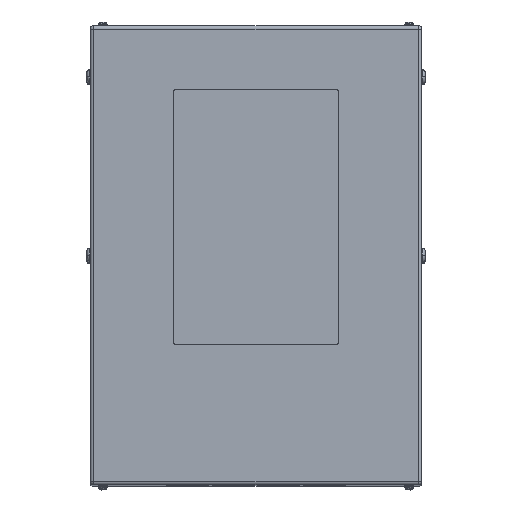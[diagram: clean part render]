
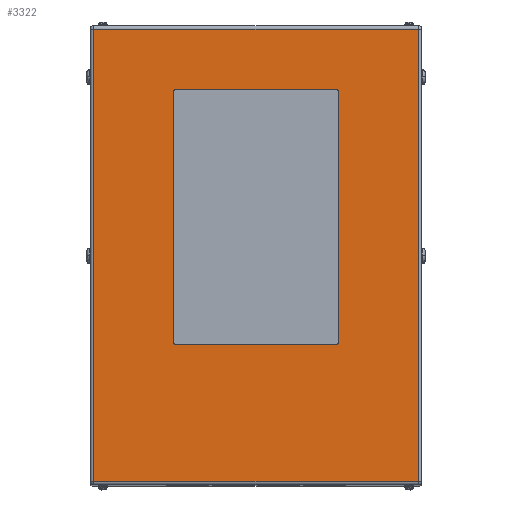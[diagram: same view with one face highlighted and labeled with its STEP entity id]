
A CAD part, top view. The second image highlights one B-rep face of the part: STEP entity #3322.
In plain terms, the highlighted planar face has unit normal (0, 0, 1).
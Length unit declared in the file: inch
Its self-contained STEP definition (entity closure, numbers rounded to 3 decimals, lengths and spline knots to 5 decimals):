
#143 = LINE ( 'NONE', #12741, #16579 ) ;
#175 = VECTOR ( 'NONE', #22970, 39.37008 ) ;
#272 = CARTESIAN_POINT ( 'NONE',  ( 6.5, 12.75, 32. ) ) ;
#390 = DIRECTION ( 'NONE',  ( 0., 1., 0. ) ) ;
#531 = VERTEX_POINT ( 'NONE', #17798 ) ;
#664 = CIRCLE ( 'NONE', #19768, 0.25 ) ;
#1810 = LINE ( 'NONE', #18685, #12751 ) ;
#1937 = VECTOR ( 'NONE', #14845, 39.37008 ) ;
#1980 = VERTEX_POINT ( 'NONE', #3817 ) ;
#2233 = CARTESIAN_POINT ( 'NONE',  ( 12.734, 17.734, 32. ) ) ;
#2873 = VERTEX_POINT ( 'NONE', #3796 ) ;
#3053 = CARTESIAN_POINT ( 'NONE',  ( 12.734, -17.734, 32. ) ) ;
#3222 = FACE_OUTER_BOUND ( 'NONE', #20643, .T. ) ;
#3322 = ADVANCED_FACE ( 'NONE', ( #6051, #3222 ), #22959, .F. ) ;
#3324 = ORIENTED_EDGE ( 'NONE', *, *, #10189, .T. ) ;
#3589 = ORIENTED_EDGE ( 'NONE', *, *, #9261, .F. ) ;
#3648 = ORIENTED_EDGE ( 'NONE', *, *, #20543, .F. ) ;
#3796 = CARTESIAN_POINT ( 'NONE',  ( -6.5, -6.75, 32. ) ) ;
#3817 = CARTESIAN_POINT ( 'NONE',  ( -6.25, 13., 32. ) ) ;
#3963 = DIRECTION ( 'NONE',  ( -1., 0., 0. ) ) ;
#4308 = CARTESIAN_POINT ( 'NONE',  ( 13., 17.734, 32. ) ) ;
#4738 = ORIENTED_EDGE ( 'NONE', *, *, #14513, .F. ) ;
#5002 = CARTESIAN_POINT ( 'NONE',  ( -6.5, 12.75, 32. ) ) ;
#5668 = CARTESIAN_POINT ( 'NONE',  ( 12.734, -17.734, 32. ) ) ;
#5907 = VECTOR ( 'NONE', #11511, 39.37008 ) ;
#6051 = FACE_BOUND ( 'NONE', #19979, .T. ) ;
#6164 = CARTESIAN_POINT ( 'NONE',  ( -12.734, -17.734, 32. ) ) ;
#6569 = VERTEX_POINT ( 'NONE', #6164 ) ;
#6709 = ORIENTED_EDGE ( 'NONE', *, *, #22350, .T. ) ;
#6949 = VERTEX_POINT ( 'NONE', #14094 ) ;
#7139 = AXIS2_PLACEMENT_3D ( 'NONE', #13692, #11968, #14023 ) ;
#7405 = DIRECTION ( 'NONE',  ( 0., 0., 1. ) ) ;
#7844 = ORIENTED_EDGE ( 'NONE', *, *, #18151, .F. ) ;
#7958 = EDGE_CURVE ( 'NONE', #16424, #12172, #14262, .T. ) ;
#8287 = ORIENTED_EDGE ( 'NONE', *, *, #7958, .T. ) ;
#8759 = EDGE_CURVE ( 'NONE', #6569, #16424, #16491, .T. ) ;
#8784 = VERTEX_POINT ( 'NONE', #16610 ) ;
#8838 = CIRCLE ( 'NONE', #19664, 0.25 ) ;
#8927 = CARTESIAN_POINT ( 'NONE',  ( 6.25, -6.75, 32. ) ) ;
#9163 = CARTESIAN_POINT ( 'NONE',  ( 6.25, 12.75, 32. ) ) ;
#9261 = EDGE_CURVE ( 'NONE', #8784, #15487, #14209, .T. ) ;
#9346 = EDGE_CURVE ( 'NONE', #6949, #12144, #17922, .T. ) ;
#10189 = EDGE_CURVE ( 'NONE', #531, #6569, #1810, .T. ) ;
#11274 = LINE ( 'NONE', #4308, #5907 ) ;
#11511 = DIRECTION ( 'NONE',  ( -1., 0., 0. ) ) ;
#11901 = EDGE_CURVE ( 'NONE', #12144, #1980, #143, .T. ) ;
#11903 = VECTOR ( 'NONE', #390, 39.37008 ) ;
#11950 = DIRECTION ( 'NONE',  ( 0., 0., 1. ) ) ;
#11968 = DIRECTION ( 'NONE',  ( 0., 0., -1. ) ) ;
#12144 = VERTEX_POINT ( 'NONE', #23189 ) ;
#12172 = VERTEX_POINT ( 'NONE', #2233 ) ;
#12359 = CARTESIAN_POINT ( 'NONE',  ( -6.25, -7., 32. ) ) ;
#12659 = DIRECTION ( 'NONE',  ( 0., 0., 1. ) ) ;
#12741 = CARTESIAN_POINT ( 'NONE',  ( -6.25, 13., 32. ) ) ;
#12751 = VECTOR ( 'NONE', #22109, 39.37008 ) ;
#12846 = CARTESIAN_POINT ( 'NONE',  ( -6.25, -6.75, 32. ) ) ;
#13169 = CARTESIAN_POINT ( 'NONE',  ( -6.5, 12.75, 32. ) ) ;
#13680 = ORIENTED_EDGE ( 'NONE', *, *, #9346, .F. ) ;
#13692 = CARTESIAN_POINT ( 'NONE',  ( 13., 18., 32. ) ) ;
#14023 = DIRECTION ( 'NONE',  ( -1., 0., 0. ) ) ;
#14094 = CARTESIAN_POINT ( 'NONE',  ( 6.5, 12.75, 32. ) ) ;
#14209 = LINE ( 'NONE', #12359, #21715 ) ;
#14262 = LINE ( 'NONE', #20104, #20819 ) ;
#14513 = EDGE_CURVE ( 'NONE', #2873, #8784, #19318, .T. ) ;
#14726 = DIRECTION ( 'NONE',  ( 0., 0., 1. ) ) ;
#14845 = DIRECTION ( 'NONE',  ( 1., 0., 0. ) ) ;
#15157 = VERTEX_POINT ( 'NONE', #17591 ) ;
#15487 = VERTEX_POINT ( 'NONE', #19338 ) ;
#16385 = LINE ( 'NONE', #272, #11903 ) ;
#16424 = VERTEX_POINT ( 'NONE', #3053 ) ;
#16491 = LINE ( 'NONE', #5668, #1937 ) ;
#16579 = VECTOR ( 'NONE', #16840, 39.37008 ) ;
#16610 = CARTESIAN_POINT ( 'NONE',  ( -6.25, -7., 32. ) ) ;
#16840 = DIRECTION ( 'NONE',  ( -1., 0., 0. ) ) ;
#17192 = CARTESIAN_POINT ( 'NONE',  ( -6.25, 12.75, 32. ) ) ;
#17591 = CARTESIAN_POINT ( 'NONE',  ( 6.5, -6.75, 32. ) ) ;
#17798 = CARTESIAN_POINT ( 'NONE',  ( -12.734, 17.734, 32. ) ) ;
#17922 = CIRCLE ( 'NONE', #22078, 0.25 ) ;
#17976 = DIRECTION ( 'NONE',  ( 0., 1., 0. ) ) ;
#18151 = EDGE_CURVE ( 'NONE', #1980, #18362, #664, .T. ) ;
#18362 = VERTEX_POINT ( 'NONE', #13169 ) ;
#18685 = CARTESIAN_POINT ( 'NONE',  ( -12.734, 18., 32. ) ) ;
#18938 = DIRECTION ( 'NONE',  ( 1., 0., 0. ) ) ;
#19164 = ORIENTED_EDGE ( 'NONE', *, *, #11901, .F. ) ;
#19178 = ORIENTED_EDGE ( 'NONE', *, *, #8759, .T. ) ;
#19226 = DIRECTION ( 'NONE',  ( 1., 0., 0. ) ) ;
#19318 = CIRCLE ( 'NONE', #19738, 0.25 ) ;
#19338 = CARTESIAN_POINT ( 'NONE',  ( 6.25, -7., 32. ) ) ;
#19664 = AXIS2_PLACEMENT_3D ( 'NONE', #8927, #12659, #19778 ) ;
#19738 = AXIS2_PLACEMENT_3D ( 'NONE', #12846, #14726, #19978 ) ;
#19768 = AXIS2_PLACEMENT_3D ( 'NONE', #17192, #11950, #18938 ) ;
#19778 = DIRECTION ( 'NONE',  ( 1., 0., 0. ) ) ;
#19977 = EDGE_CURVE ( 'NONE', #15487, #15157, #8838, .T. ) ;
#19978 = DIRECTION ( 'NONE',  ( 1., 0., 0. ) ) ;
#19979 = EDGE_LOOP ( 'NONE', ( #3589, #4738, #20471, #7844, #19164, #13680, #3648, #22499 ) ) ;
#20104 = CARTESIAN_POINT ( 'NONE',  ( 12.734, 18., 32. ) ) ;
#20282 = EDGE_CURVE ( 'NONE', #18362, #2873, #21207, .T. ) ;
#20471 = ORIENTED_EDGE ( 'NONE', *, *, #20282, .F. ) ;
#20543 = EDGE_CURVE ( 'NONE', #15157, #6949, #16385, .T. ) ;
#20643 = EDGE_LOOP ( 'NONE', ( #3324, #19178, #8287, #6709 ) ) ;
#20819 = VECTOR ( 'NONE', #17976, 39.37008 ) ;
#21207 = LINE ( 'NONE', #5002, #175 ) ;
#21715 = VECTOR ( 'NONE', #19226, 39.37008 ) ;
#22078 = AXIS2_PLACEMENT_3D ( 'NONE', #9163, #7405, #3963 ) ;
#22109 = DIRECTION ( 'NONE',  ( 0., -1., 0. ) ) ;
#22350 = EDGE_CURVE ( 'NONE', #12172, #531, #11274, .T. ) ;
#22499 = ORIENTED_EDGE ( 'NONE', *, *, #19977, .F. ) ;
#22959 = PLANE ( 'NONE',  #7139 ) ;
#22970 = DIRECTION ( 'NONE',  ( 0., -1., 0. ) ) ;
#23189 = CARTESIAN_POINT ( 'NONE',  ( 6.25, 13., 32. ) ) ;
